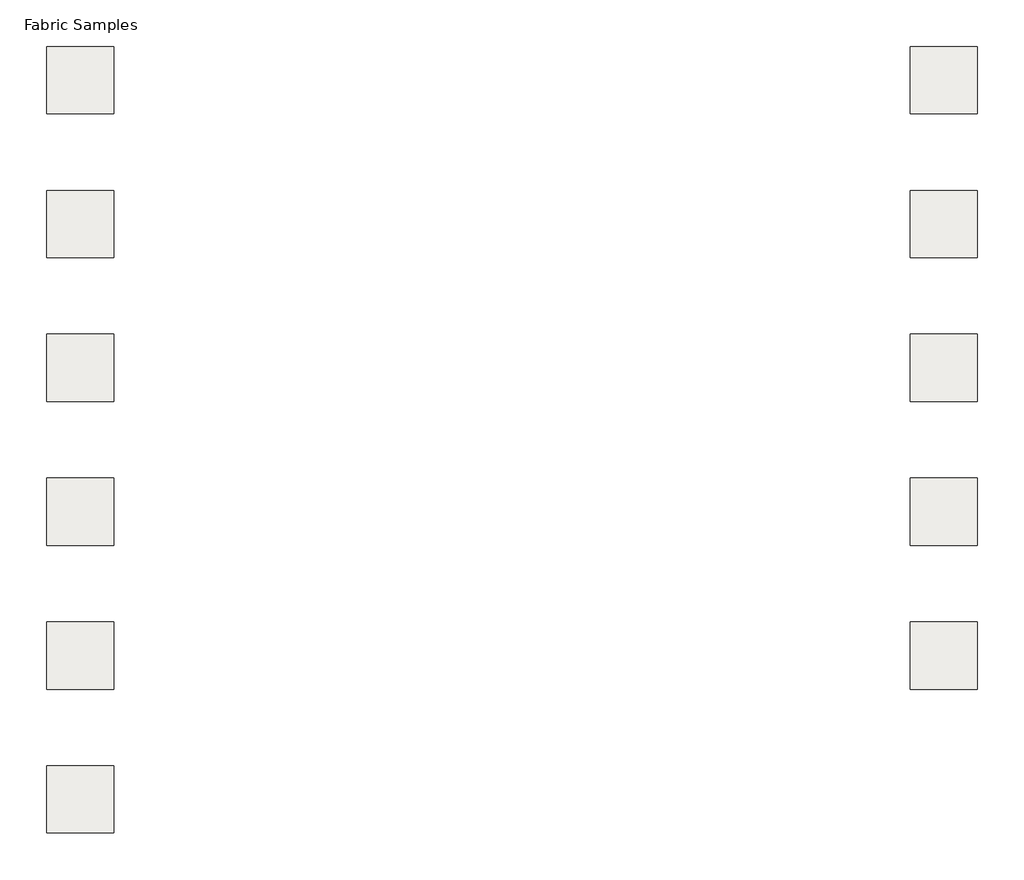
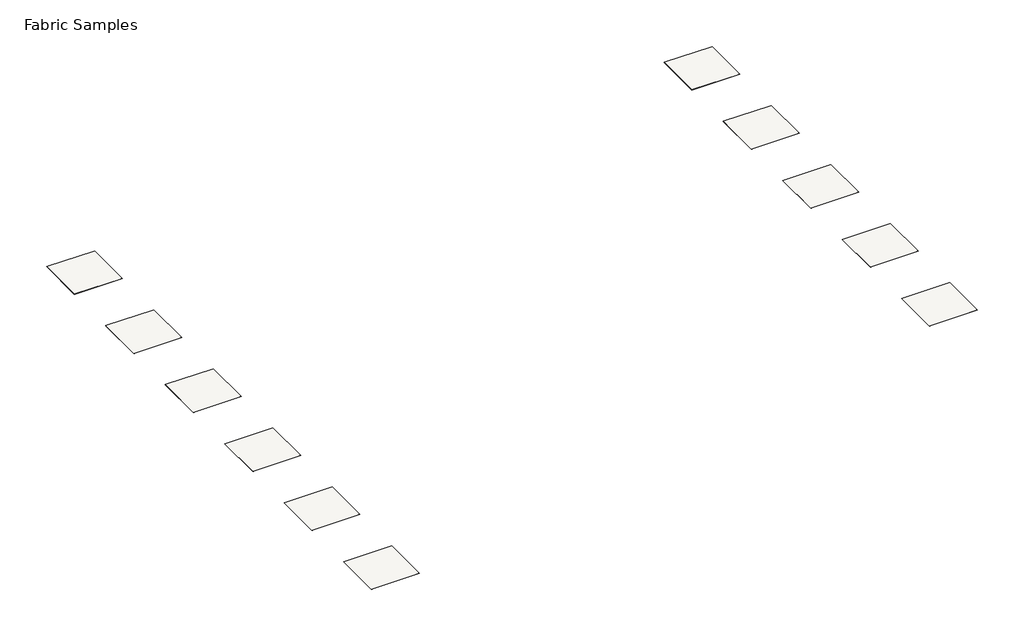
# One storey: 11 coverings.
"""IFC4 building model written with IfcOpenShell, lengths in millimetres."""

from ifc_helpers import new_model, si_unit, frame, origin, place, context, project, spatial, polyline, outline, extrude, element, save

model = new_model("IFC4")

# Units and contexts
model_context = context("Model", 3, world=origin())
ifc_project = project(units=[si_unit("LENGTHUNIT", "METRE", prefix="MILLI")], contexts=[model_context])

# Site, building, storey
site = spatial("IfcSite", under=ifc_project)
building = spatial("IfcBuilding", under=site)
storey = spatial("IfcBuildingStorey", under=building, Name="Fabric Samples", Elevation=0.0)

# Coverings
placement = place(None, origin())
element("IfcCovering", 1, ObjectType="CamiraFabrics_TxtlRllCvrngs_Touch_Close_VTU07", at=placement, inside=storey, context=model_context, shape_type="SweptSolid", body=[
    extrude(outline(polyline([(515.5073044, 1029.1514654), (515.5073044, -370.8485346), (-884.4926956, -370.8485346), (-884.4926956, 1029.1514654), (515.5073044, 1029.1514654)])), frame((0.0, 0.0, -2.0), z_axis=(0.0, 0.0, 1.0), x_axis=(1.0, 0.0, 0.0)), (0.0, 0.0, 1.0), 2.0),
])
element("IfcCovering", 2, ObjectType="CamiraFabrics_TxtlRllCvrngs_Touch_Affect_VTU16", at=placement, inside=storey, context=model_context, shape_type="SweptSolid", body=[
    extrude(outline(polyline([(18515.5073044, 1029.1514654), (18515.5073044, -370.8485346), (17115.5073044, -370.8485346), (17115.5073044, 1029.1514654), (18515.5073044, 1029.1514654)])), frame((0.0, 0.0, -2.0), z_axis=(0.0, 0.0, 1.0), x_axis=(1.0, 0.0, 0.0)), (0.0, 0.0, 1.0), 2.0),
])
element("IfcCovering", 3, ObjectType="CamiraFabrics_TxtlRllCvrngs_Touch_Caress_VTU08", at=placement, inside=storey, context=model_context, shape_type="SweptSolid", body=[
    extrude(outline(polyline([(515.5073044, -1970.8485346), (515.5073044, -3370.8485346), (-884.4926956, -3370.8485346), (-884.4926956, -1970.8485346), (515.5073044, -1970.8485346)])), frame((0.0, 0.0, -2.0), z_axis=(0.0, 0.0, 1.0), x_axis=(1.0, 0.0, 0.0)), (0.0, 0.0, 1.0), 2.0),
])
element("IfcCovering", 4, ObjectType="CamiraFabrics_TxtlRllCvrngs_Touch_Feel_VTU17", at=placement, inside=storey, context=model_context, shape_type="SweptSolid", body=[
    extrude(outline(polyline([(18515.5073044, -1970.8485346), (18515.5073044, -3370.8485346), (17115.5073044, -3370.8485346), (17115.5073044, -1970.8485346), (18515.5073044, -1970.8485346)])), frame((0.0, 0.0, -2.0), z_axis=(0.0, 0.0, 1.0), x_axis=(1.0, 0.0, 0.0)), (0.0, 0.0, 1.0), 2.0),
])
element("IfcCovering", 5, ObjectType="CamiraFabrics_TxtlRllCvrngs_Touch_Impact_VTU09", at=placement, inside=storey, context=model_context, shape_type="SweptSolid", body=[
    extrude(outline(polyline([(515.5073044, -4970.8485346), (515.5073044, -6370.8485346), (-884.4926956, -6370.8485346), (-884.4926956, -4970.8485346), (515.5073044, -4970.8485346)])), frame((0.0, 0.0, -2.0), z_axis=(0.0, 0.0, 1.0), x_axis=(1.0, 0.0, 0.0)), (0.0, 0.0, 1.0), 2.0),
])
element("IfcCovering", 6, ObjectType="CamiraFabrics_TxtlRllCvrngs_Touch_Brush_VTU18", at=placement, inside=storey, context=model_context, shape_type="SweptSolid", body=[
    extrude(outline(polyline([(18515.5073044, -4970.8485346), (18515.5073044, -6370.8485346), (17115.5073044, -6370.8485346), (17115.5073044, -4970.8485346), (18515.5073044, -4970.8485346)])), frame((0.0, 0.0, -2.0), z_axis=(0.0, 0.0, 1.0), x_axis=(1.0, 0.0, 0.0)), (0.0, 0.0, 1.0), 2.0),
])
element("IfcCovering", 7, ObjectType="CamiraFabrics_TxtlRllCvrngs_Touch_Handle_VTU10", at=placement, inside=storey, context=model_context, shape_type="SweptSolid", body=[
    extrude(outline(polyline([(515.5073044, -7970.8485346), (515.5073044, -9370.8485346), (-884.4926956, -9370.8485346), (-884.4926956, -7970.8485346), (515.5073044, -7970.8485346)])), frame((0.0, 0.0, -2.0), z_axis=(0.0, 0.0, 1.0), x_axis=(1.0, 0.0, 0.0)), (0.0, 0.0, 1.0), 2.0),
])
element("IfcCovering", 8, ObjectType="CamiraFabrics_TxtlRllCvrngs_Touch_Link_VTU19", at=placement, inside=storey, context=model_context, shape_type="SweptSolid", body=[
    extrude(outline(polyline([(18515.5073044, -7970.8485346), (18515.5073044, -9370.8485346), (17115.5073044, -9370.8485346), (17115.5073044, -7970.8485346), (18515.5073044, -7970.8485346)])), frame((0.0, 0.0, -2.0), z_axis=(0.0, 0.0, 1.0), x_axis=(1.0, 0.0, 0.0)), (0.0, 0.0, 1.0), 2.0),
])
element("IfcCovering", 9, ObjectType="CamiraFabrics_TxtlRllCvrngs_Touch_Press_VTU11", at=placement, inside=storey, context=model_context, shape_type="SweptSolid", body=[
    extrude(outline(polyline([(515.5073044, -10970.8485346), (515.5073044, -12370.8485346), (-884.4926956, -12370.8485346), (-884.4926956, -10970.8485346), (515.5073044, -10970.8485346)])), frame((0.0, 0.0, -2.0), z_axis=(0.0, 0.0, 1.0), x_axis=(1.0, 0.0, 0.0)), (0.0, 0.0, 1.0), 2.0),
])
element("IfcCovering", 10, ObjectType="CamiraFabrics_TxtlRllCvrngs_Touch_Whisper_VTU20", at=placement, inside=storey, context=model_context, shape_type="SweptSolid", body=[
    extrude(outline(polyline([(18515.5073044, -10970.8485346), (18515.5073044, -12370.8485346), (17115.5073044, -12370.8485346), (17115.5073044, -10970.8485346), (18515.5073044, -10970.8485346)])), frame((0.0, 0.0, -2.0), z_axis=(0.0, 0.0, 1.0), x_axis=(1.0, 0.0, 0.0)), (0.0, 0.0, 1.0), 2.0),
])
element("IfcCovering", 11, ObjectType="CamiraFabrics_TxtlRllCvrngs_Touch_Neighbour_VTU12", at=placement, inside=storey, context=model_context, shape_type="SweptSolid", body=[
    extrude(outline(polyline([(515.5073044, -13970.8485346), (515.5073044, -15370.8485346), (-884.4926956, -15370.8485346), (-884.4926956, -13970.8485346), (515.5073044, -13970.8485346)])), frame((0.0, 0.0, -2.0), z_axis=(0.0, 0.0, 1.0), x_axis=(1.0, 0.0, 0.0)), (0.0, 0.0, 1.0), 2.0),
])

save(model, "model.ifc")
